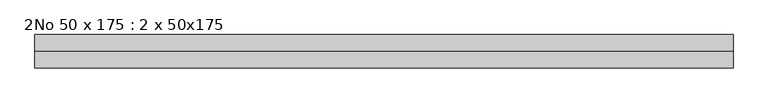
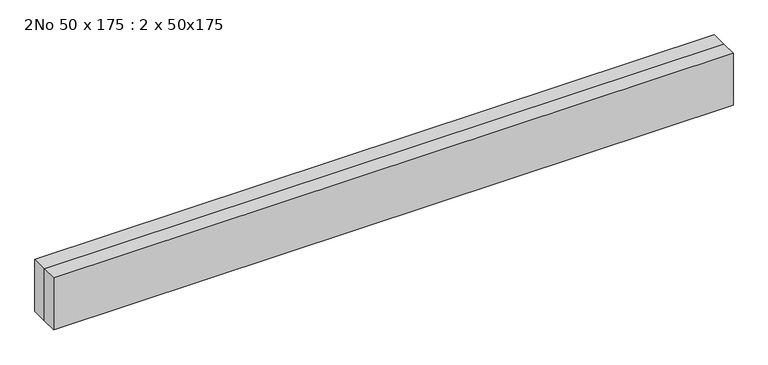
"""IFC4 building model written with IfcOpenShell, lengths in millimetres: beam geometry, 2No 50 x 175 : 2 x 50x175."""

from ifc_helpers import new_model, si_unit, frame, origin, place, context, project, spatial, polyline, outline, extrude, source, transform, mapped, element, save


def beam_2no_50_x_175_2_x_50x175_784defc4(model_context):
    return source(origin(), model_context, "Body", "SweptSolid", [
        extrude(outline(polyline([(1051.0000006, -25.0), (1051.0000006, -75.0), (-1051.0000006, -75.0), (-1051.0000006, -25.0), (1051.0000006, -25.0)])), frame((0.0, 0.0, -85.0), z_axis=(0.0, 0.0, 1.0), x_axis=(1.0, 0.0, 0.0)), (0.0, 0.0, 1.0), 170.0),
        extrude(outline(polyline([(1051.0000006, 25.0), (1051.0000006, -25.0), (-1051.0000006, -25.0), (-1051.0000006, 25.0), (1051.0000006, 25.0)])), frame((0.0, 0.0, -85.0), z_axis=(0.0, 0.0, 1.0), x_axis=(1.0, 0.0, 0.0)), (0.0, 0.0, 1.0), 170.0),
    ])


if __name__ == "__main__":
    model = new_model("IFC4")
    model_context = context("Model", 3, world=origin())
    ifc_project = project(units=[si_unit("LENGTHUNIT", "METRE", prefix="MILLI")], contexts=[model_context])
    site = spatial("IfcSite", under=ifc_project)
    building = spatial("IfcBuilding", under=site)
    placement = place(None, origin())
    beam_2no_50_x_175_2_x_50x175_shape = beam_2no_50_x_175_2_x_50x175_784defc4(model_context)
    element("IfcBeam", 1, ObjectType="2No 50 x 175 : 2 x 50x175", at=placement, inside=building, context=model_context, shape_type="MappedRepresentation", body=[
        mapped(beam_2no_50_x_175_2_x_50x175_shape, transform((0.0, 0.0, 0.0), x_axis=(1.0, 0.0, 0.0), y_axis=(0.0, 1.0, 0.0), z_axis=(0.0, 0.0, 1.0))),
    ])
    save(model, "model.ifc")
